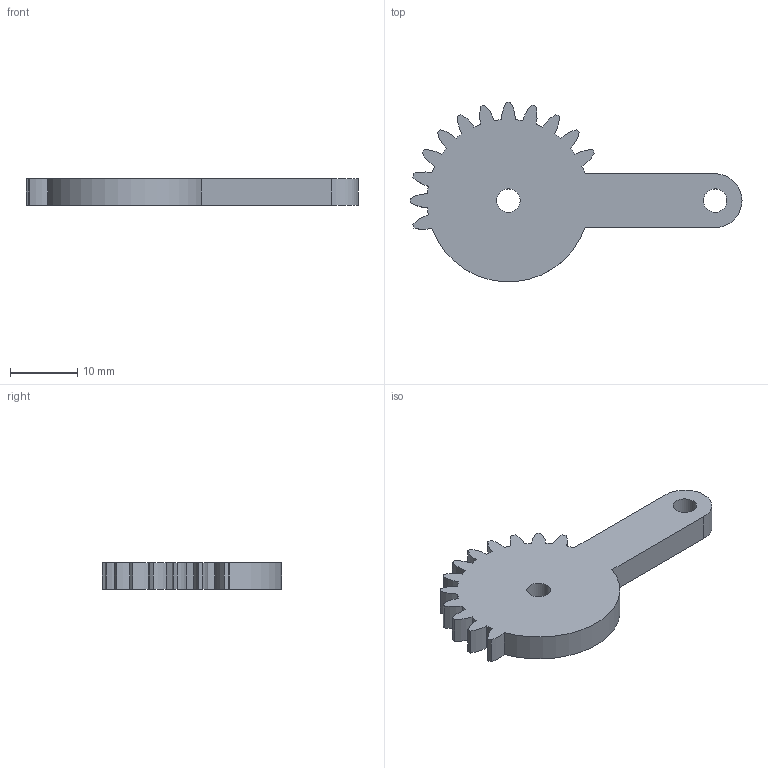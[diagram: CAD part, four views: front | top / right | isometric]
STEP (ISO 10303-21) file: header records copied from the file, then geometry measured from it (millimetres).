
FILE_DESCRIPTION(/* description */ (''),/* implementation_level */ '2;1');
FILE_NAME(/* name */ 'Part 2 gear 2.step',/* time_stamp */ '2024-01-03T12:17:18+05:30',/* author */ (''),/* organization */ (''),/* preprocessor_version */ 'ST-DEVELOPER v20',/* originating_system */ 'Autodesk Translation Framework v12.14.0.127',/* authorisation */ '');
FILE_SCHEMA (('AUTOMOTIVE_DESIGN { 1 0 10303 214 3 1 1 }'));
Length unit declared in the file: millimetre
Products named in the file (1): Part 2 gear 2
Bounding box: 49.38 x 26.68 x 4 mm (x, y, z)
Volume: 2658.2 mm3; surface area: 2083.4 mm2
Topology: 1 solids, 1 shells, 56 faces, 162 edges, 108 vertices
Faces by surface type: cylinder 52, plane 4
Full cylindrical faces by diameter (mm): 3.5 x2
Entity records: 1951 total; most frequent: DIRECTION 380, CARTESIAN_POINT 327, ORIENTED_EDGE 324, EDGE_CURVE 162, AXIS2_PLACEMENT_3D 161, VERTEX_POINT 108, CIRCLE 104, EDGE_LOOP 60
